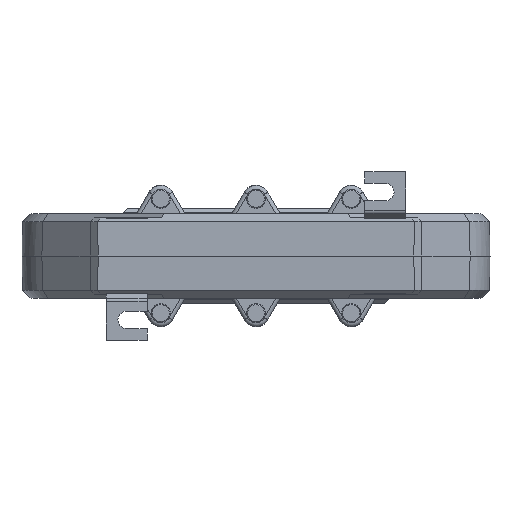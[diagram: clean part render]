
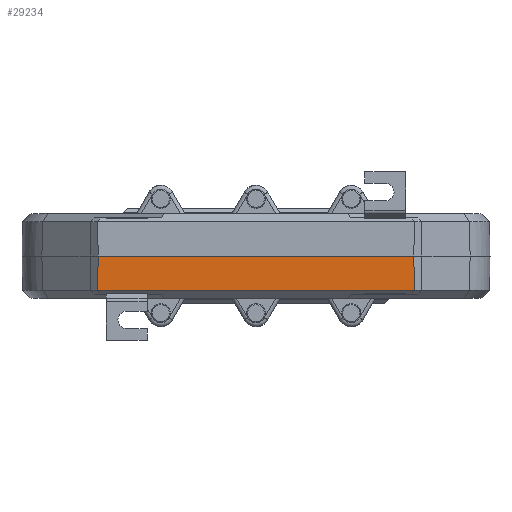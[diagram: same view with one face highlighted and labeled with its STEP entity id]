
A CAD part, front view. The second image highlights one B-rep face of the part: STEP entity #29234.
In plain terms, the highlighted planar face has unit normal (0, -1, -0.018) as drawn and (0, -1, 0.017) by its records, which use the part's own axes.
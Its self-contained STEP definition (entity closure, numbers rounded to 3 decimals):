
#717=PLANE('',#31186);
#2840=FACE_OUTER_BOUND('',#4552,.T.);
#4552=EDGE_LOOP('',(#21039,#21040,#21041,#21042,#21043,#21044));
#6588=LINE('',#42289,#9805);
#6632=LINE('',#42397,#9849);
#6704=LINE('',#42641,#9921);
#6705=LINE('',#42642,#9922);
#6706=LINE('',#42644,#9923);
#6707=LINE('',#42645,#9924);
#9805=VECTOR('',#33325,1000.);
#9849=VECTOR('',#33393,1000.);
#9921=VECTOR('',#33547,1000.);
#9922=VECTOR('',#33548,1000.);
#9923=VECTOR('',#33549,1000.);
#9924=VECTOR('',#33550,1000.);
#13522=VERTEX_POINT('',#42286);
#13523=VERTEX_POINT('',#42288);
#13574=VERTEX_POINT('',#42394);
#13575=VERTEX_POINT('',#42396);
#13682=VERTEX_POINT('',#42640);
#13683=VERTEX_POINT('',#42643);
#16424=EDGE_CURVE('',#13523,#13522,#6588,.T.);
#16478=EDGE_CURVE('',#13575,#13574,#6632,.T.);
#16590=EDGE_CURVE('',#13522,#13682,#6704,.T.);
#16591=EDGE_CURVE('',#13575,#13682,#6705,.T.);
#16592=EDGE_CURVE('',#13683,#13574,#6706,.T.);
#16593=EDGE_CURVE('',#13683,#13523,#6707,.T.);
#21039=ORIENTED_EDGE('',*,*,#16424,.T.);
#21040=ORIENTED_EDGE('',*,*,#16590,.T.);
#21041=ORIENTED_EDGE('',*,*,#16591,.F.);
#21042=ORIENTED_EDGE('',*,*,#16478,.T.);
#21043=ORIENTED_EDGE('',*,*,#16592,.F.);
#21044=ORIENTED_EDGE('',*,*,#16593,.T.);
#29234=ADVANCED_FACE('',(#2840),#717,.T.);
#31186=AXIS2_PLACEMENT_3D('',#42639,#33545,#33546);
#33325=DIRECTION('',(1.,0.,0.));
#33393=DIRECTION('',(-1.,0.,0.));
#33545=DIRECTION('center_axis',(0.,-1.,
0.017));
#33546=DIRECTION('ref_axis',(0.,-0.017,-1.));
#33547=DIRECTION('',(0.017,0.017,1.));
#33548=DIRECTION('',(0.813,-0.01,-0.582));
#33549=DIRECTION('',(0.813,0.01,0.582));
#33550=DIRECTION('',(0.017,-0.017,-1.));
#42286=CARTESIAN_POINT('',(58.,-82.,0.));
#42288=CARTESIAN_POINT('',(-58.,-82.,0.));
#42289=CARTESIAN_POINT('',(61.,-82.,0.));
#42394=CARTESIAN_POINT('',(-57.908,-81.778,12.722));
#42396=CARTESIAN_POINT('',(57.908,-81.778,12.722));
#42397=CARTESIAN_POINT('',(-49.,-81.778,12.722));
#42639=CARTESIAN_POINT('Origin',(61.,-82.,0.));
#42640=CARTESIAN_POINT('',(58.218,-81.782,12.5));
#42641=CARTESIAN_POINT('',(58.272,-81.728,15.595));
#42642=CARTESIAN_POINT('',(65.975,-81.879,6.947));
#42643=CARTESIAN_POINT('',(-58.218,-81.782,12.5));
#42644=CARTESIAN_POINT('',(14.674,-80.871,64.687));
#42645=CARTESIAN_POINT('',(-58.27,-81.73,15.491));
